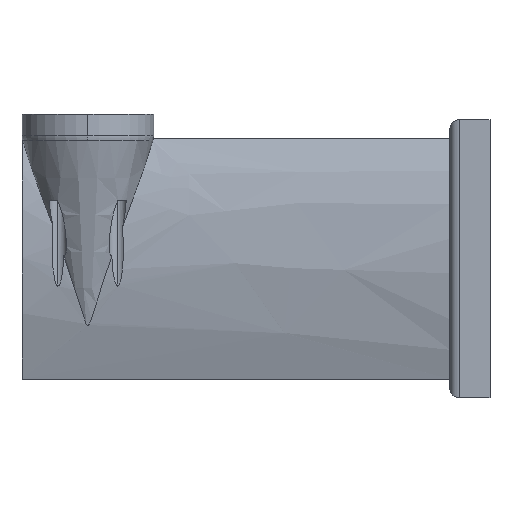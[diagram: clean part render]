
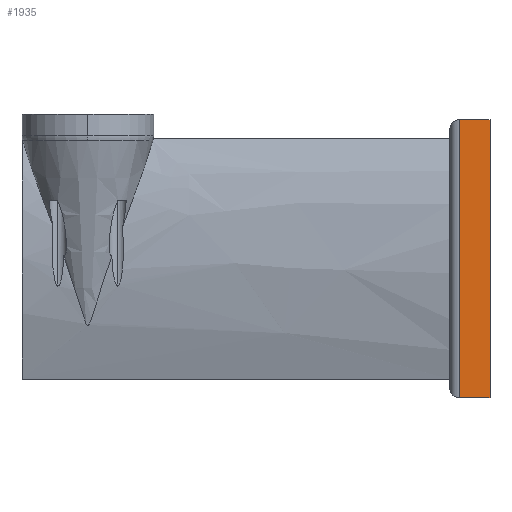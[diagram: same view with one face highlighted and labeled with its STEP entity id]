
A CAD part, left-side view. The second image highlights one B-rep face of the part: STEP entity #1935.
In plain terms, the highlighted planar face has unit normal (-1, 0, 0).
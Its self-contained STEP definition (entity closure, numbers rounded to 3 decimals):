
#34 = CARTESIAN_POINT ( 'NONE',  ( -86.323, -95., -42.384 ) ) ;
#298 = ORIENTED_EDGE ( 'NONE', *, *, #2258, .T. ) ;
#367 = ORIENTED_EDGE ( 'NONE', *, *, #529, .T. ) ;
#396 = VERTEX_POINT ( 'NONE', #2361 ) ;
#469 = VECTOR ( 'NONE', #2105, 1000. ) ;
#529 = EDGE_CURVE ( 'NONE', #3198, #1761, #2686, .T. ) ;
#639 = VECTOR ( 'NONE', #678, 1000. ) ;
#678 = DIRECTION ( 'NONE',  ( 0., 0., 1. ) ) ;
#814 = EDGE_LOOP ( 'NONE', ( #367, #2734, #2379, #298 ) ) ;
#885 = AXIS2_PLACEMENT_3D ( 'NONE', #2735, #3208, #2715 ) ;
#1345 = VERTEX_POINT ( 'NONE', #3083 ) ;
#1692 = EDGE_CURVE ( 'NONE', #1761, #396, #2121, .T. ) ;
#1761 = VERTEX_POINT ( 'NONE', #3191 ) ;
#1935 = ADVANCED_FACE ( 'NONE', ( #1979 ), #1946, .F. ) ;
#1946 = PLANE ( 'NONE',  #885 ) ;
#1979 = FACE_OUTER_BOUND ( 'NONE', #814, .T. ) ;
#2105 = DIRECTION ( 'NONE',  ( 0., 0., -1. ) ) ;
#2121 = LINE ( 'NONE', #3115, #469 ) ;
#2212 = CARTESIAN_POINT ( 'NONE',  ( -86.323, -95., 96.077 ) ) ;
#2258 = EDGE_CURVE ( 'NONE', #1345, #3198, #3142, .T. ) ;
#2361 = CARTESIAN_POINT ( 'NONE',  ( -86.323, 15., -42.384 ) ) ;
#2369 = CARTESIAN_POINT ( 'NONE',  ( -86.323, 0., 96.077 ) ) ;
#2379 = ORIENTED_EDGE ( 'NONE', *, *, #2743, .F. ) ;
#2391 = CARTESIAN_POINT ( 'NONE',  ( -86.323, 0., 27.089 ) ) ;
#2401 = VECTOR ( 'NONE', #2480, 1000. ) ;
#2480 = DIRECTION ( 'NONE',  ( 0., 1., 0. ) ) ;
#2509 = DIRECTION ( 'NONE',  ( 0., 1., 0. ) ) ;
#2686 = LINE ( 'NONE', #2212, #2401 ) ;
#2715 = DIRECTION ( 'NONE',  ( 0., 0., -1. ) ) ;
#2734 = ORIENTED_EDGE ( 'NONE', *, *, #1692, .T. ) ;
#2735 = CARTESIAN_POINT ( 'NONE',  ( -86.323, -95., 96.077 ) ) ;
#2743 = EDGE_CURVE ( 'NONE', #1345, #396, #3243, .T. ) ;
#3083 = CARTESIAN_POINT ( 'NONE',  ( -86.323, 0., -42.384 ) ) ;
#3115 = CARTESIAN_POINT ( 'NONE',  ( -86.323, 15., 96.077 ) ) ;
#3142 = LINE ( 'NONE', #2391, #639 ) ;
#3152 = VECTOR ( 'NONE', #2509, 1000. ) ;
#3191 = CARTESIAN_POINT ( 'NONE',  ( -86.323, 15., 96.077 ) ) ;
#3198 = VERTEX_POINT ( 'NONE', #2369 ) ;
#3208 = DIRECTION ( 'NONE',  ( 1., 0., 0. ) ) ;
#3243 = LINE ( 'NONE', #34, #3152 ) ;
